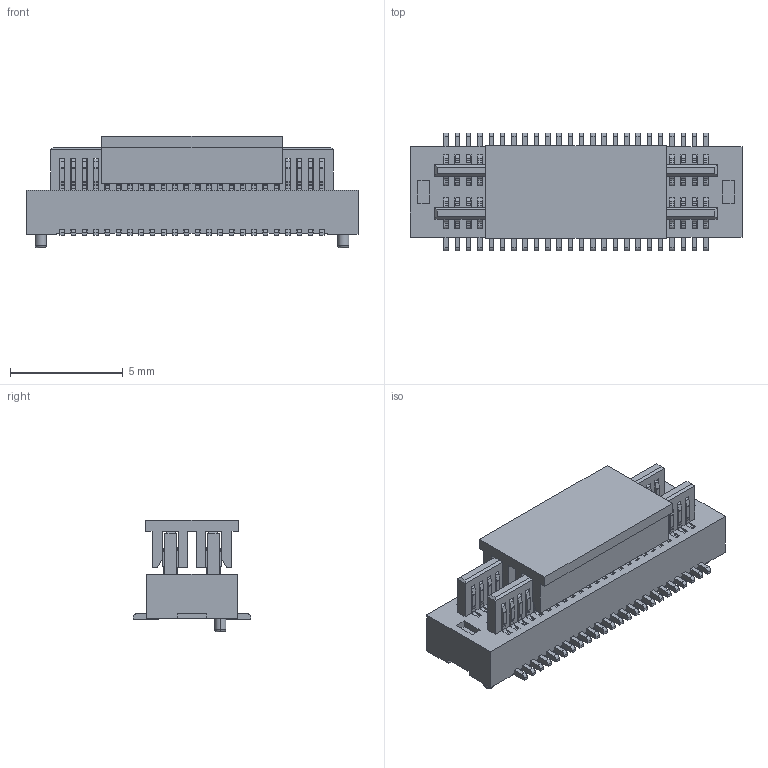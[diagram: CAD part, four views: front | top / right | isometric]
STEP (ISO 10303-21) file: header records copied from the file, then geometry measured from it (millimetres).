
FILE_DESCRIPTION(('CATIA V5 STEP Exchange'),'2;1');
FILE_NAME('F:\黄富鸿\板对板\PBB05\公座\H2.0\编带+盖\HC-PBB05-2-48-M-H2.0-G1-R-P-04（BTB0.5 双槽 公座 立贴 带柱 编带+盖）-HCTL.stp','2025-12-18T02:47:37+00:00',('none'),('none'),'CATIA Version 5 Release 20 GA (IN-10)','CATIA V5 STEP AP203','none');
FILE_SCHEMA(('CONFIG_CONTROL_DESIGN'));
Products named in the file (1): Part2
Bounding box: 14.7 x 5.2 x 4.95 mm (x, y, z)
Volume: 173 mm3; surface area: 1235.3 mm2
Topology: 50 solids, 50 shells, 2768 faces, 8454 edges, 5600 vertices
Faces by surface type: plane 1800, cylinder 964, torus 4
Entity records: 81179 total; most frequent: ORIENTED_EDGE 16908, CARTESIAN_POINT 15060, DIRECTION 9120, EDGE_CURVE 8454, VECTOR 6326, LINE 6326, VERTEX_POINT 5600, EDGE_LOOP 2774
